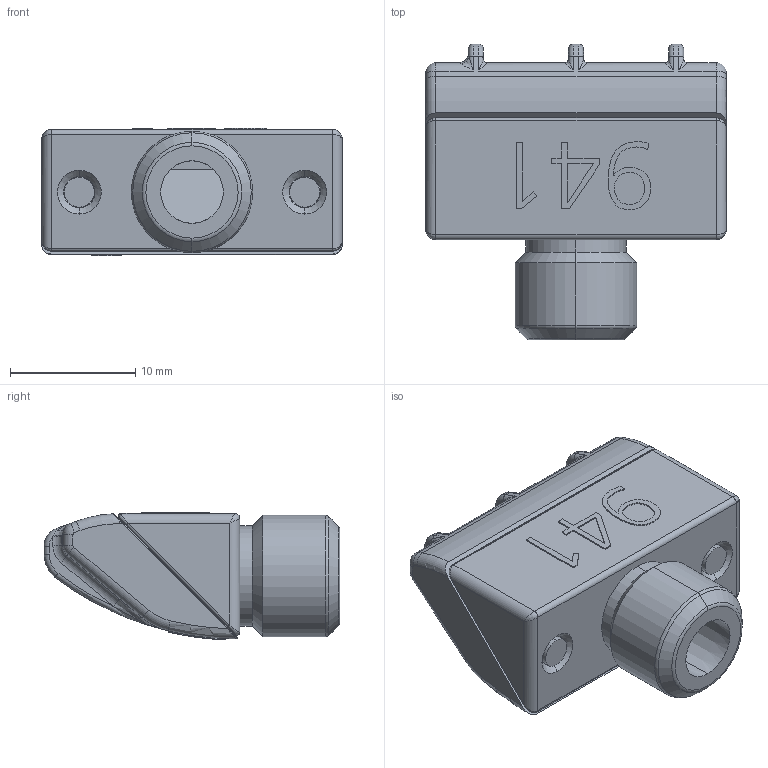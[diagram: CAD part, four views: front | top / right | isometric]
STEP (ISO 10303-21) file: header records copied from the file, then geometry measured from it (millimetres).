
FILE_DESCRIPTION (( 'STEP AP214' ), '1' );
FILE_NAME ('941.STEP', '2016-10-25T06:54:52', ( '' ), ( '' ), 'SwSTEP 2.0', 'SolidWorks 2016', '' );
FILE_SCHEMA (( 'AUTOMOTIVE_DESIGN' ));
Length unit declared in the file: millimetre
Products named in the file (1): 941
Bounding box: 24 x 23.63 x 10.19 mm (x, y, z)
Volume: 2012.1 mm3; surface area: 2759.3 mm2
Topology: 1 solids, 1 shells, 436 faces, 1089 edges, 661 vertices
Faces by surface type: bspline 171, plane 118, cylinder 91, torus 45, cone 11
Entity records: 22308 total; most frequent: CARTESIAN_POINT 8726, ORIENTED_EDGE 2150, DIRECTION 1315, EDGE_CURVE 1075, VERTEX_POINT 661, AXIS2_PLACEMENT_3D 483, EDGE_LOOP 460, UNCERTAINTY_MEASURE_WITH_UNIT 439
